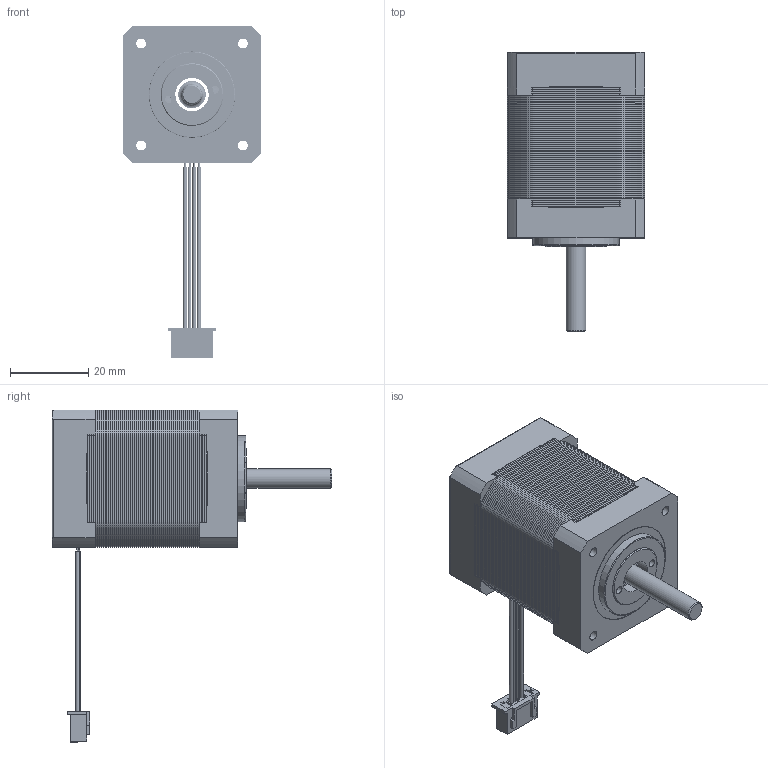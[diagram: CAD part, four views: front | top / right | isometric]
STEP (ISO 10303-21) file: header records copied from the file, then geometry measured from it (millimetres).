
FILE_DESCRIPTION( ('This file contains a STEP AP42 implementation' ,'as created by ZW3D STEP Interface translator.' ,'') ,'2;1' );
FILE_NAME( '35H48H-0914A-001.stp' ,'25 318.1449 5', (''), ('ZWCAD Software Co.'), 'Version 1.0', 'ZW3D to STEP translator', '' );
FILE_SCHEMA(('AUTOMOTIVE_DESIGN { 1 0 10303 214 1 1 1 1 }'));
Length unit declared in the file: millimetre
Products named in the file (102): 0; 35H48H-0914A-001; C010350002-REV.B; B010350125-REV.A; 隅赽沺郋; C160350001-REV.A; C130350001-REV.A; C280060102-REV.A; D070010001-REV.A; D070010004-REV.A; D070010002-REV.A; D070010005-REV.A; lw-9012; B020350030-REV.A; C030350002-REV.A; C170350002-REV.A; C040350001-REV.A; C050350001-REV.A; C090350018-REV.A; C010350001-REV.B; C060010004-REV.A; C070350001-REV.C; C200420002-REV.A
Assembly tree (103 placements, depth 4):
  0
  35H48H-0914A-001
    C010350002-REV.B
    B010350125-REV.A
      隅赽沺郋
        C160350001-REV.A
        C160350001-REV.A
        C160350001-REV.A
        C160350001-REV.A
        C160350001-REV.A
        C160350001-REV.A
        C160350001-REV.A
        C160350001-REV.A
        C160350001-REV.A
        C160350001-REV.A
        C160350001-REV.A
        C160350001-REV.A
        C160350001-REV.A
        C160350001-REV.A
        C160350001-REV.A
        C160350001-REV.A
        C160350001-REV.A
        C160350001-REV.A
        C160350001-REV.A
        C160350001-REV.A
        C160350001-REV.A
        C160350001-REV.A
        C160350001-REV.A
        C160350001-REV.A
        C160350001-REV.A
        C160350001-REV.A
        C160350001-REV.A
        C160350001-REV.A
        C160350001-REV.A
        C160350001-REV.A
        C160350001-REV.A
        C160350001-REV.A
        C160350001-REV.A
        C160350001-REV.A
        C160350001-REV.A
        C160350001-REV.A
        C160350001-REV.A
        C160350001-REV.A
        C160350001-REV.A
        C160350001-REV.A
        C160350001-REV.A
        C160350001-REV.A
        C160350001-REV.A
        C160350001-REV.A
        C160350001-REV.A
        C160350001-REV.A
        C160350001-REV.A
        C160350001-REV.A
        C160350001-REV.A
        C160350001-REV.A
        C160350001-REV.A
        C160350001-REV.A
        C160350001-REV.A
        C160350001-REV.A
        C160350001-REV.A
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Bounding box: 35 x 71.4 x 84.72 mm (x, y, z)
Volume: 21845.5 mm3; surface area: 64281.6 mm2
Topology: 74 solids, 74 shells, 4916 faces, 14267 edges, 9491 vertices
Faces by surface type: cylinder 3113, plane 1732, bspline 67, cone 3, torus 1
Full cylindrical faces by diameter (mm): 0.5 x8, 1 x2, 1.2 x488, 2 x2, 2.5 x4, 3.2 x183, 3.309 x61, 3.4 x4, 5 x1, 5.8 x4, 8.5 x1, 9.2 x1, 11.5 x1, 16 x3, 22 x1, 26 x1, 30.37 x1
Entity records: 187731 total; most frequent: CARTESIAN_POINT 30855, DIRECTION 29912, ORIENTED_EDGE 28532, EDGE_CURVE 14266, AXIS2_PLACEMENT_3D 11075, VERTEX_POINT 9490, VECTOR 7762, LINE 7762
